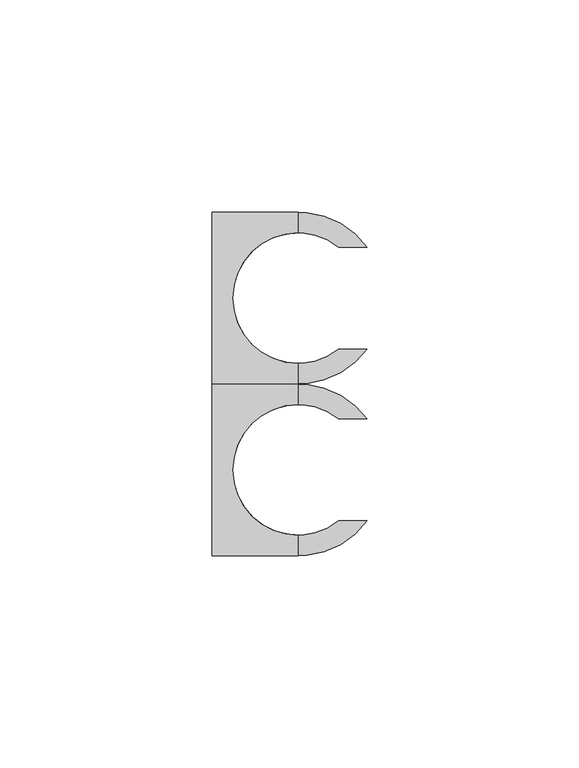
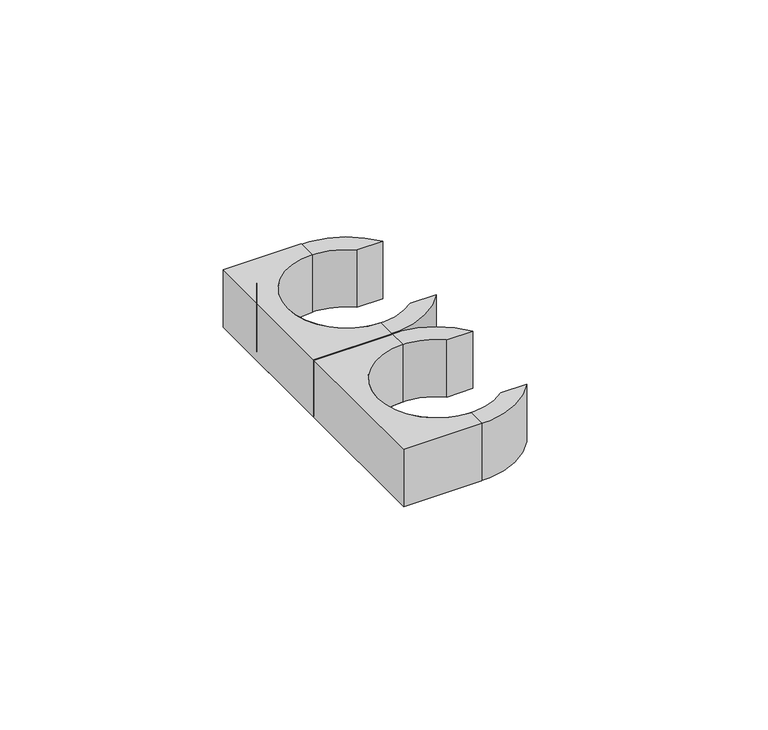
"""IFC4 building model written with IfcOpenShell, lengths in millimetres: valve geometry, EGB_VASEN_ PPR_Abrazadera doble : Abrazadera doble."""

from ifc_helpers import new_model, si_unit, point, frame_2d, origin, origin_with_axes, origin_2d, place, context, project, spatial, polyline, circle_curve, trimmed, segment, composite_curve, outline, extrude, source, transform, mapped, element, save


def valve_c576af65(model_context):
    return source(origin(), model_context, "Body", "SweptSolid", [
        extrude(outline(composite_curve([segment(polyline([(0.0, 20.25), (-20.25, 20.25), (-20.25, 60.75), (0.0, 60.75), (0.0, 55.875)]), True, "CONTINUOUS"), segment(trimmed(circle_curve(frame_2d((0.0, 40.5)), 15.375), [point((0.0, 55.875))], [point((-15.375, 40.5))], True, "CARTESIAN"), True, "CONTINUOUS"), segment(trimmed(circle_curve(frame_2d((0.0, 40.5)), 15.375), [point((-15.375, 40.5))], [point((0.0, 25.125))], True, "CARTESIAN"), True, "CONTINUOUS"), segment(polyline([(0.0, 25.125), (0.0, 20.25)]), True, "CONTINUOUS")], self_intersect=False)), origin_with_axes(), (0.0, 0.0, 1.0), 15.7),
        extrude(outline(composite_curve([segment(trimmed(circle_curve(frame_2d((0.0, 40.5)), 20.25), [point((-20.25, 40.5))], [point((16.2893094, 52.53))], False, "CARTESIAN"), True, "CONTINUOUS"), segment(polyline([(16.2893094, 52.53), (9.5744308, 52.53)]), True, "CONTINUOUS"), segment(trimmed(circle_curve(frame_2d((0.0, 40.5)), 15.375), [point((9.5744308, 52.53))], [point((-15.375, 40.5))], True, "CARTESIAN"), True, "CONTINUOUS"), segment(trimmed(circle_curve(frame_2d((0.0, 40.5)), 15.375), [point((-15.375, 40.5))], [point((9.5744308, 28.47))], True, "CARTESIAN"), True, "CONTINUOUS"), segment(polyline([(9.5744308, 28.47), (16.2893094, 28.47)]), True, "CONTINUOUS"), segment(trimmed(circle_curve(frame_2d((0.0, 40.5)), 20.25), [point((16.2893094, 28.47))], [point((-20.25, 40.5))], False, "CARTESIAN"), True, "CONTINUOUS")], self_intersect=False)), origin_with_axes(), (0.0, 0.0, 1.0), 15.7),
        extrude(outline(composite_curve([segment(polyline([(0.0, -20.25), (-20.25, -20.25), (-20.25, 20.25), (0.0, 20.25), (0.0, 15.375)]), True, "CONTINUOUS"), segment(trimmed(circle_curve(origin_2d(), 15.375), [point((0.0, 15.375))], [point((-15.375, 0.0))], True, "CARTESIAN"), True, "CONTINUOUS"), segment(trimmed(circle_curve(origin_2d(), 15.375), [point((-15.375, 0.0))], [point((0.0, -15.375))], True, "CARTESIAN"), True, "CONTINUOUS"), segment(polyline([(0.0, -15.375), (0.0, -20.25)]), True, "CONTINUOUS")], self_intersect=False)), origin_with_axes(), (0.0, 0.0, 1.0), 15.7),
        extrude(outline(composite_curve([segment(trimmed(circle_curve(origin_2d(), 20.25), [point((-20.25, 0.0))], [point((16.2893094, 12.03))], False, "CARTESIAN"), True, "CONTINUOUS"), segment(polyline([(16.2893094, 12.03), (9.5744308, 12.03)]), True, "CONTINUOUS"), segment(trimmed(circle_curve(origin_2d(), 15.375), [point((9.5744308, 12.03))], [point((-15.375, 0.0))], True, "CARTESIAN"), True, "CONTINUOUS"), segment(trimmed(circle_curve(origin_2d(), 15.375), [point((-15.375, 0.0))], [point((9.5744308, -12.03))], True, "CARTESIAN"), True, "CONTINUOUS"), segment(polyline([(9.5744308, -12.03), (16.2893094, -12.03)]), True, "CONTINUOUS"), segment(trimmed(circle_curve(origin_2d(), 20.25), [point((16.2893094, -12.03))], [point((-20.25, 0.0))], False, "CARTESIAN"), True, "CONTINUOUS")], self_intersect=False)), origin_with_axes(), (0.0, 0.0, 1.0), 15.7),
    ])


if __name__ == "__main__":
    model = new_model("IFC4")
    model_context = context("Model", 3, world=origin())
    ifc_project = project(units=[si_unit("LENGTHUNIT", "METRE", prefix="MILLI")], contexts=[model_context])
    site = spatial("IfcSite", under=ifc_project)
    building = spatial("IfcBuilding", under=site)
    placement = place(None, origin())
    valve_shape = valve_c576af65(model_context)
    element("IfcValve", 1, ObjectType="EGB_VASEN_ PPR_Abrazadera doble : Abrazadera doble", at=placement, inside=building, context=model_context, shape_type="MappedRepresentation", body=[
        mapped(valve_shape, transform((0.0, 0.0, 0.0), x_axis=(1.0, 0.0, 0.0), y_axis=(0.0, 1.0, 0.0), z_axis=(0.0, 0.0, 1.0))),
    ])
    save(model, "model.ifc")
